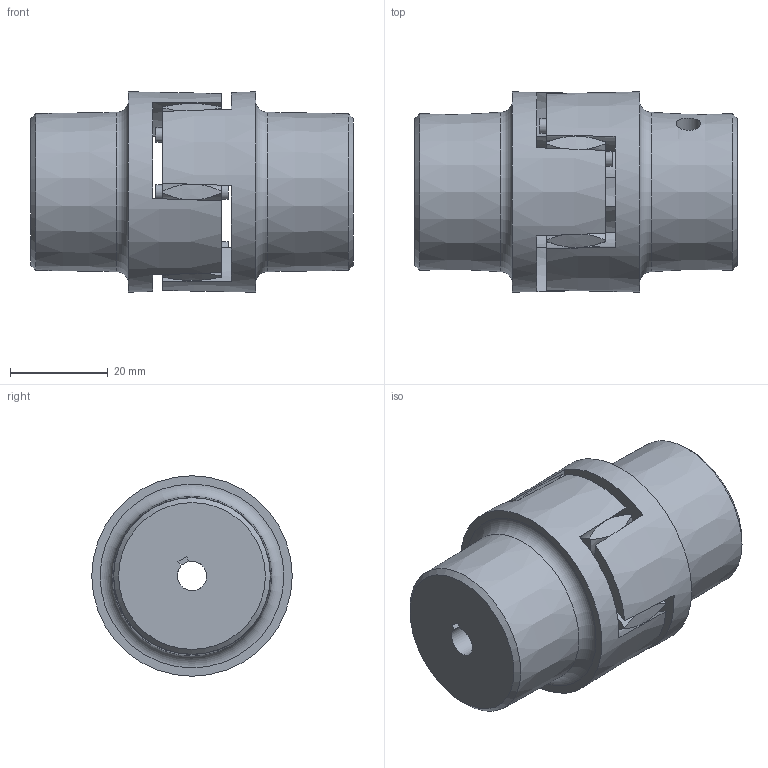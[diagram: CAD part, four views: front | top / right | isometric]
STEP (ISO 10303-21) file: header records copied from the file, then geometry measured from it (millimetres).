
FILE_DESCRIPTION(/* description */ (''),/* implementation_level */ '2;1');
FILE_NAME(/* name */ 'RP19-6-PF-6-PF',/* time_stamp */ '2024-01-05T15:27:25+01:00',/* author */ ('M. Horlacher'),/* organization */ (''),/* preprocessor_version */ 'ST-DEVELOPER v20',/* originating_system */ 'Autodesk Inventor 2024',/* authorisation */ '');
FILE_SCHEMA (('AUTOMOTIVE_DESIGN { 1 0 10303 214 3 1 1 }'));
Length unit declared in the file: millimetre
Products named in the file (4): RP STEP; RP19-Nabe_1; RP19 Stern 92Shore; RP19-Nabe_1_1
Assembly tree (3 placements, depth 2):
  RP STEP
    RP19-Nabe_1
    RP19 Stern 92Shore
    RP19-Nabe_1_1
Bounding box: 66 x 41 x 41 mm (x, y, z)
Volume: 56481 mm3; surface area: 18377.5 mm2
Topology: 3 solids, 3 shells, 90 faces, 233 edges, 156 vertices
Faces by surface type: plane 29, cone 24, bspline 24, cylinder 11, torus 2
Full cylindrical faces by diameter (mm): 3 x6, 5 x2, 18 x1
Entity records: 3917 total; most frequent: CARTESIAN_POINT 1616, ORIENTED_EDGE 466, DIRECTION 435, EDGE_CURVE 233, AXIS2_PLACEMENT_3D 196, VERTEX_POINT 156, CIRCLE 111, EDGE_LOOP 107
